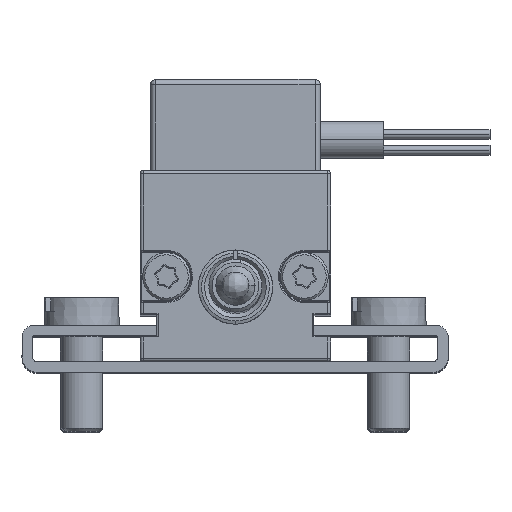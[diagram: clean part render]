
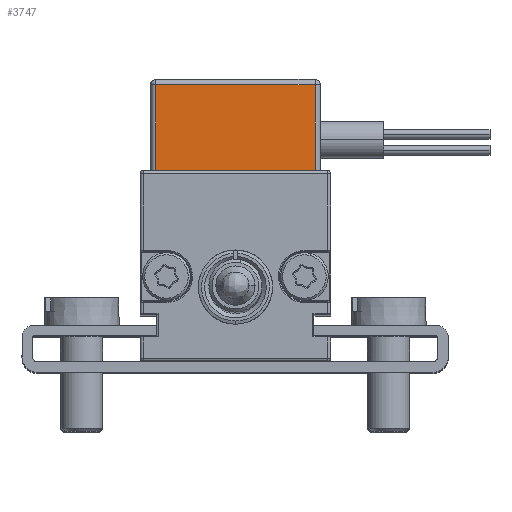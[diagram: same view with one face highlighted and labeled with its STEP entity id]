
A CAD part, top view. The second image highlights one B-rep face of the part: STEP entity #3747.
In plain terms, the highlighted planar face has unit normal (0, 0, 1).
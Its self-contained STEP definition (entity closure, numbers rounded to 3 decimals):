
#3660 = VERTEX_POINT ( 'NONE', #29837 ) ;
#3662 = EDGE_CURVE ( 'NONE', #3660, #3663, #29830, .T. ) ;
#3663 = VERTEX_POINT ( 'NONE', #29824 ) ;
#3674 = VERTEX_POINT ( 'NONE', #29979 ) ;
#3680 = VERTEX_POINT ( 'NONE', #29962 ) ;
#3682 = EDGE_CURVE ( 'NONE', #3680, #3674, #29958, .T. ) ;
#3707 = EDGE_CURVE ( 'NONE', #3663, #3680, #30147, .T. ) ;
#3747 = ADVANCED_FACE ( 'NONE', ( #30451 ), #30522, .F. ) ;
#3748 = EDGE_LOOP ( 'NONE', ( #3749, #3799, #3801, #3802 ) ) ;
#3749 = ORIENTED_EDGE ( 'NONE', *, *, #3662, .F. ) ;
#3799 = ORIENTED_EDGE ( 'NONE', *, *, #3800, .F. ) ;
#3800 = EDGE_CURVE ( 'NONE', #3674, #3660, #30896, .T. ) ;
#3801 = ORIENTED_EDGE ( 'NONE', *, *, #3682, .F. ) ;
#3802 = ORIENTED_EDGE ( 'NONE', *, *, #3707, .F. ) ;
#29824 = CARTESIAN_POINT ( 'NONE',  ( 7.202, -12.288, 130. ) ) ;
#29825 = DIRECTION ( 'NONE',  ( 0., -1., 0. ) ) ;
#29827 = VECTOR ( 'NONE', #29825, 1000. ) ;
#29828 = CARTESIAN_POINT ( 'NONE',  ( 7.202, -3.688, 130. ) ) ;
#29830 = LINE ( 'NONE', #29828, #29827 ) ;
#29837 = CARTESIAN_POINT ( 'NONE',  ( 7.202, -4.188, 130. ) ) ;
#29952 = DIRECTION ( 'NONE',  ( 0., 1., 0. ) ) ;
#29954 = VECTOR ( 'NONE', #29952, 1000. ) ;
#29957 = CARTESIAN_POINT ( 'NONE',  ( -7.798, -3.688, 130. ) ) ;
#29958 = LINE ( 'NONE', #29957, #29954 ) ;
#29962 = CARTESIAN_POINT ( 'NONE',  ( -7.798, -12.288, 130. ) ) ;
#29979 = CARTESIAN_POINT ( 'NONE',  ( -7.798, -4.188, 130. ) ) ;
#30137 = DIRECTION ( 'NONE',  ( -1., 0., 0. ) ) ;
#30138 = VECTOR ( 'NONE', #30137, 1000. ) ;
#30139 = CARTESIAN_POINT ( 'NONE',  ( -8.298, -12.288, 130. ) ) ;
#30147 = LINE ( 'NONE', #30139, #30138 ) ;
#30451 = FACE_OUTER_BOUND ( 'NONE', #3748, .T. ) ;
#30513 = DIRECTION ( 'NONE',  ( -1., 0., 0. ) ) ;
#30515 = DIRECTION ( 'NONE',  ( 0., 0., -1. ) ) ;
#30516 = CARTESIAN_POINT ( 'NONE',  ( -8.298, -3.688, 130. ) ) ;
#30518 = AXIS2_PLACEMENT_3D ( 'NONE', #30516, #30515, #30513 ) ;
#30522 = PLANE ( 'NONE',  #30518 ) ;
#30890 = DIRECTION ( 'NONE',  ( 1., 0., 0. ) ) ;
#30892 = VECTOR ( 'NONE', #30890, 1000. ) ;
#30895 = CARTESIAN_POINT ( 'NONE',  ( 7.702, -4.188, 130. ) ) ;
#30896 = LINE ( 'NONE', #30895, #30892 ) ;
